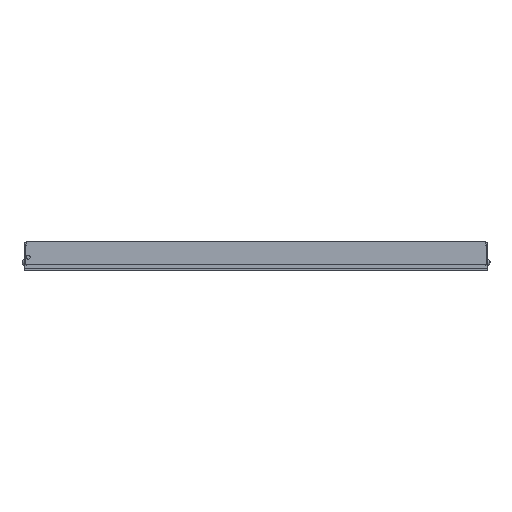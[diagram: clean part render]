
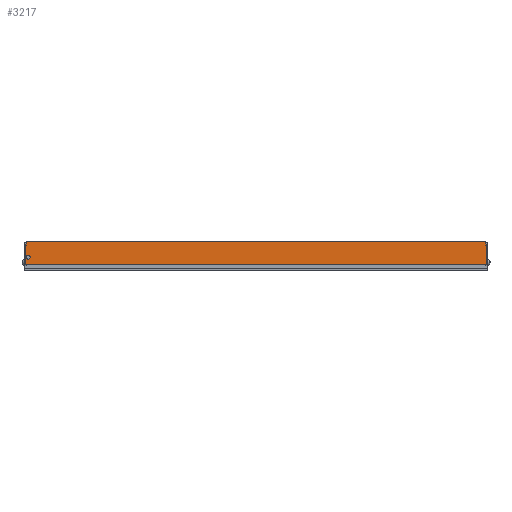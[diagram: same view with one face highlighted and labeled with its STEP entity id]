
A CAD part, top view. The second image highlights one B-rep face of the part: STEP entity #3217.
In plain terms, the highlighted planar face has unit normal (0, 0, 1) as drawn and (1, 0, 0) by its records, which use the part's own axes.
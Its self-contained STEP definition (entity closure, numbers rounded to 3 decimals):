
#328=DIRECTION('',(0.,1.,0.));
#329=VECTOR('',#328,17.499);
#330=CARTESIAN_POINT('',(9.,-4.3,-208.));
#331=LINE('',#330,#329);
#951=CARTESIAN_POINT('',(9.,2.3,205.25));
#952=DIRECTION('',(1.,0.,0.));
#953=DIRECTION('',(0.,0.,-1.));
#954=AXIS2_PLACEMENT_3D('',#951,#952,#953);
#956=CARTESIAN_POINT('',(9.,2.3,205.25));
#957=DIRECTION('',(1.,0.,0.));
#958=DIRECTION('',(0.,0.,1.));
#959=AXIS2_PLACEMENT_3D('',#956,#957,#958);
#961=DIRECTION('',(0.,-1.,0.));
#962=VECTOR('',#961,3.301);
#963=CARTESIAN_POINT('',(9.,16.5,-207.));
#964=LINE('',#963,#962);
#965=DIRECTION('',(0.,0.,-1.));
#966=VECTOR('',#965,1.);
#967=CARTESIAN_POINT('',(9.,13.199,-207.));
#968=LINE('',#967,#966);
#969=DIRECTION('',(0.,0.,1.));
#970=VECTOR('',#969,416.);
#971=CARTESIAN_POINT('',(9.,-4.3,-208.));
#972=LINE('',#971,#970);
#973=DIRECTION('',(0.,0.,-1.));
#974=VECTOR('',#973,414.);
#975=CARTESIAN_POINT('',(9.,16.5,207.));
#976=LINE('',#975,#974);
#999=DIRECTION('',(0.,-1.,0.));
#1000=VECTOR('',#999,17.497);
#1001=CARTESIAN_POINT('',(9.,13.197,208.));
#1002=LINE('',#1001,#1000);
#1011=DIRECTION('',(0.,0.,1.));
#1012=VECTOR('',#1011,1.);
#1013=CARTESIAN_POINT('',(9.,13.197,207.));
#1014=LINE('',#1013,#1012);
#1035=DIRECTION('',(0.,-1.,0.));
#1036=VECTOR('',#1035,3.303);
#1037=CARTESIAN_POINT('',(9.,16.5,207.));
#1038=LINE('',#1037,#1036);
#1702=CARTESIAN_POINT('',(9.,13.197,208.));
#1704=VERTEX_POINT('',#1702);
#1707=CARTESIAN_POINT('',(9.,-4.3,208.));
#1708=VERTEX_POINT('',#1707);
#1791=CARTESIAN_POINT('',(9.,16.5,-207.));
#1793=VERTEX_POINT('',#1791);
#1809=CARTESIAN_POINT('',(9.,16.5,207.));
#1810=VERTEX_POINT('',#1809);
#1811=CARTESIAN_POINT('',(9.,2.3,207.));
#1813=VERTEX_POINT('',#1811);
#1817=CARTESIAN_POINT('',(9.,2.3,203.5));
#1818=VERTEX_POINT('',#1817);
#1823=CARTESIAN_POINT('',(9.,13.197,207.));
#1824=VERTEX_POINT('',#1823);
#1921=CARTESIAN_POINT('',(9.,13.199,-208.));
#1923=VERTEX_POINT('',#1921);
#1925=CARTESIAN_POINT('',(9.,-4.3,-208.));
#1926=VERTEX_POINT('',#1925);
#1965=CARTESIAN_POINT('',(9.,13.199,-207.));
#1967=VERTEX_POINT('',#1965);
#3192=CARTESIAN_POINT('',(9.,-4.3,207.));
#3193=DIRECTION('',(1.,0.,0.));
#3194=DIRECTION('',(0.,1.,0.));
#3195=AXIS2_PLACEMENT_3D('',#3192,#3193,#3194);
#3196=PLANE('',#3195);
#3197=ORIENTED_EDGE('',*,*,#2034,.T.);
#3198=ORIENTED_EDGE('',*,*,#2375,.T.);
#3199=ORIENTED_EDGE('',*,*,#2359,.F.);
#3200=ORIENTED_EDGE('',*,*,#3181,.T.);
#3202=ORIENTED_EDGE('',*,*,#3201,.F.);
#3204=ORIENTED_EDGE('',*,*,#3203,.F.);
#3206=ORIENTED_EDGE('',*,*,#3205,.F.);
#3208=ORIENTED_EDGE('',*,*,#3207,.T.);
#3209=EDGE_LOOP('',(#3197,#3198,#3199,#3200,#3202,#3204,#3206,#3208));
#3210=FACE_OUTER_BOUND('',#3209,.F.);
#3212=ORIENTED_EDGE('',*,*,#3211,.T.);
#3214=ORIENTED_EDGE('',*,*,#3213,.T.);
#3215=EDGE_LOOP('',(#3212,#3214));
#3216=FACE_BOUND('',#3215,.F.);
#955=CIRCLE('',#954,1.75);
#960=CIRCLE('',#959,1.75);
#2034=EDGE_CURVE('',#1793,#1967,#964,.T.);
#2359=EDGE_CURVE('',#1926,#1923,#331,.T.);
#2375=EDGE_CURVE('',#1967,#1923,#968,.T.);
#3181=EDGE_CURVE('',#1926,#1708,#972,.T.);
#3201=EDGE_CURVE('',#1704,#1708,#1002,.T.);
#3203=EDGE_CURVE('',#1824,#1704,#1014,.T.);
#3205=EDGE_CURVE('',#1810,#1824,#1038,.T.);
#3207=EDGE_CURVE('',#1810,#1793,#976,.T.);
#3211=EDGE_CURVE('',#1818,#1813,#955,.T.);
#3213=EDGE_CURVE('',#1813,#1818,#960,.T.);
#3217=ADVANCED_FACE('',(#3210,#3216),#3196,.T.);
